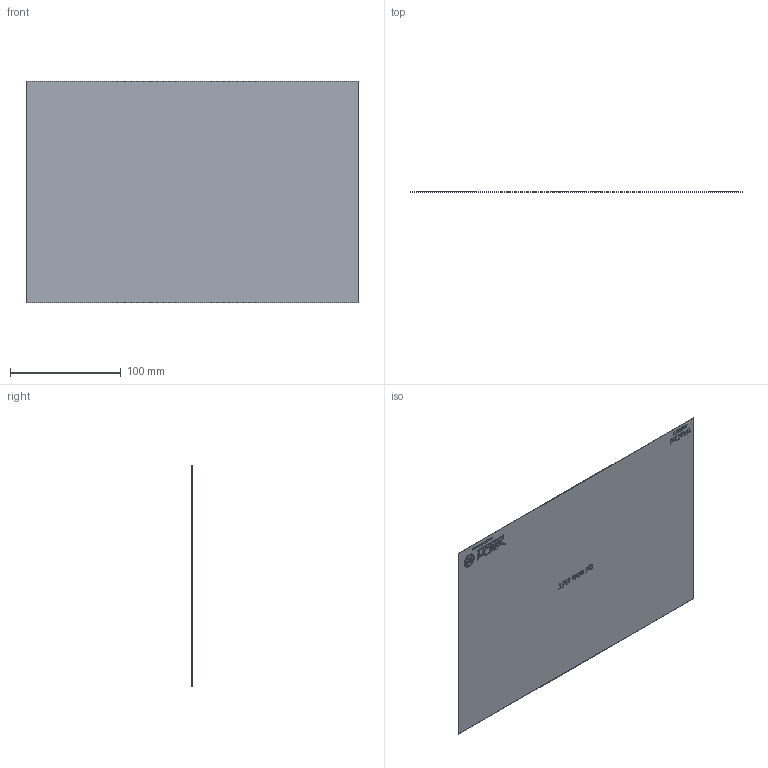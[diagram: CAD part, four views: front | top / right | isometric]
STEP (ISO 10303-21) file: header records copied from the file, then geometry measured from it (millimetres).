
FILE_DESCRIPTION (( 'STEP AP203' ), '1' );
FILE_NAME ('VT00381.STEP', '2016-10-25T09:14:08', ( '' ), ( '' ), 'SwSTEP 2.0', 'SolidWorks 2016', '' );
FILE_SCHEMA (( 'CONFIG_CONTROL_DESIGN' ));
Products named in the file (1): VT00381
Bounding box: 300 x 0.3 x 200 mm (x, y, z)
Volume: 17996.4 mm3; surface area: 120311.5 mm2
Topology: 1 solids, 1 shells, 1114 faces, 2988 edges, 1992 vertices
Faces by surface type: bspline 618, plane 496
Entity records: 52553 total; most frequent: CARTESIAN_POINT 28845, ORIENTED_EDGE 5976, EDGE_CURVE 2988, DIRECTION 2746, VERTEX_POINT 1992, LINE 1752, VECTOR 1752, B_SPLINE_CURVE_WITH_KNOTS 1236
